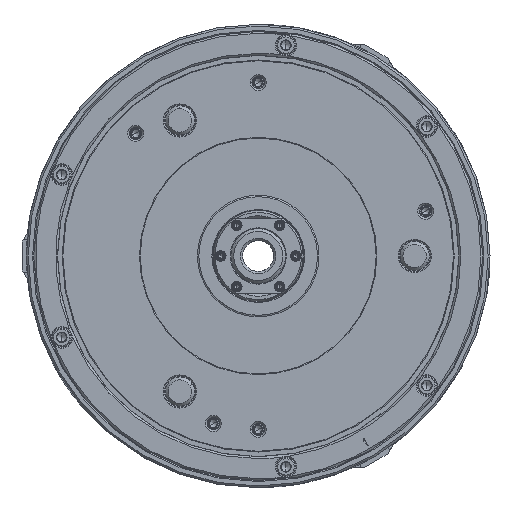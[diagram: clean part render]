
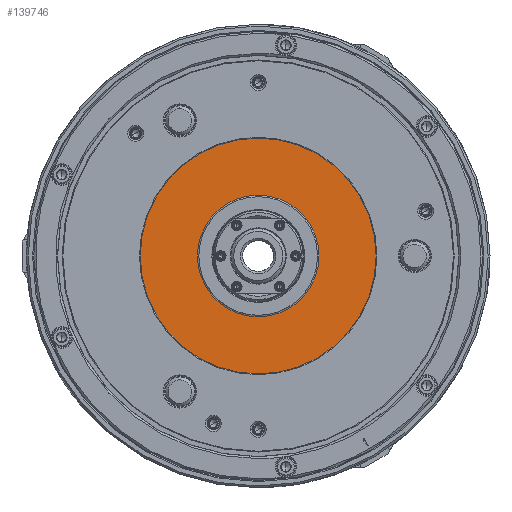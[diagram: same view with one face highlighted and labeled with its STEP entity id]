
A CAD part, left-side view. The second image highlights one B-rep face of the part: STEP entity #139746.
In plain terms, the highlighted planar face has unit normal (-1, 0, 0) as drawn and (0, 0, -1) by its records, which use the part's own axes.
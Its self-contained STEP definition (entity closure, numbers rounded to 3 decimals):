
#6763 = EDGE_CURVE ( 'NONE', #174330, #87757, #175495, .T. ) ;
#11830 = AXIS2_PLACEMENT_3D ( 'NONE', #121138, #107790, #80994 ) ;
#21144 = CARTESIAN_POINT ( 'NONE',  ( 0., 0., -126.8 ) ) ;
#22540 = CARTESIAN_POINT ( 'NONE',  ( 0., -64.616, -126.8 ) ) ;
#24269 = DIRECTION ( 'NONE',  ( 1., 0., 0. ) ) ;
#35409 = DIRECTION ( 'NONE',  ( 0., 0., -1. ) ) ;
#36931 = ORIENTED_EDGE ( 'NONE', *, *, #6763, .T. ) ;
#38969 = ORIENTED_EDGE ( 'NONE', *, *, #63363, .F. ) ;
#47932 = DIRECTION ( 'NONE',  ( 0., 0., -1. ) ) ;
#49762 = CARTESIAN_POINT ( 'NONE',  ( -64.616, 0., -126.8 ) ) ;
#51458 = CARTESIAN_POINT ( 'NONE',  ( 0., 0., -126.8 ) ) ;
#51952 = FACE_BOUND ( 'NONE', #123869, .T. ) ;
#63363 = EDGE_CURVE ( 'NONE', #63734, #89690, #101993, .T. ) ;
#63734 = VERTEX_POINT ( 'NONE', #150202 ) ;
#66256 = CARTESIAN_POINT ( 'NONE',  ( 0., 0., -126.8 ) ) ;
#73597 = ORIENTED_EDGE ( 'NONE', *, *, #138347, .T. ) ;
#80994 = DIRECTION ( 'NONE',  ( -1., 0., 0. ) ) ;
#87757 = VERTEX_POINT ( 'NONE', #169434 ) ;
#89690 = VERTEX_POINT ( 'NONE', #111211 ) ;
#89925 = DIRECTION ( 'NONE',  ( -1., 0., 0. ) ) ;
#89943 = DIRECTION ( 'NONE',  ( -1., 0., 0. ) ) ;
#91365 = EDGE_CURVE ( 'NONE', #89690, #63734, #173487, .T. ) ;
#93674 = AXIS2_PLACEMENT_3D ( 'NONE', #66256, #162568, #160810 ) ;
#101993 = CIRCLE ( 'NONE', #158858, 33.3 ) ;
#106427 = DIRECTION ( 'NONE',  ( 0., 0., 1. ) ) ;
#107790 = DIRECTION ( 'NONE',  ( 0., 0., -1. ) ) ;
#111211 = CARTESIAN_POINT ( 'NONE',  ( -33.3, 0., -126.8 ) ) ;
#120417 = AXIS2_PLACEMENT_3D ( 'NONE', #22540, #106427, #24269 ) ;
#121138 = CARTESIAN_POINT ( 'NONE',  ( 0., 0., -126.8 ) ) ;
#123869 = EDGE_LOOP ( 'NONE', ( #164893, #38969 ) ) ;
#126558 = EDGE_LOOP ( 'NONE', ( #36931, #73597 ) ) ;
#128797 = CIRCLE ( 'NONE', #11830, 64.616 ) ;
#138347 = EDGE_CURVE ( 'NONE', #87757, #174330, #128797, .T. ) ;
#139746 = ADVANCED_FACE ( 'NONE', ( #51952, #144772 ), #146517, .F. ) ;
#144772 = FACE_OUTER_BOUND ( 'NONE', #126558, .T. ) ;
#146517 = PLANE ( 'NONE',  #120417 ) ;
#150202 = CARTESIAN_POINT ( 'NONE',  ( 33.3, 0., -126.8 ) ) ;
#158858 = AXIS2_PLACEMENT_3D ( 'NONE', #51458, #47932, #89943 ) ;
#160810 = DIRECTION ( 'NONE',  ( -1., 0., 0. ) ) ;
#162568 = DIRECTION ( 'NONE',  ( 0., 0., -1. ) ) ;
#164893 = ORIENTED_EDGE ( 'NONE', *, *, #91365, .F. ) ;
#169434 = CARTESIAN_POINT ( 'NONE',  ( 64.616, 0., -126.8 ) ) ;
#172566 = AXIS2_PLACEMENT_3D ( 'NONE', #21144, #35409, #89925 ) ;
#173487 = CIRCLE ( 'NONE', #93674, 33.3 ) ;
#174330 = VERTEX_POINT ( 'NONE', #49762 ) ;
#175495 = CIRCLE ( 'NONE', #172566, 64.616 ) ;
